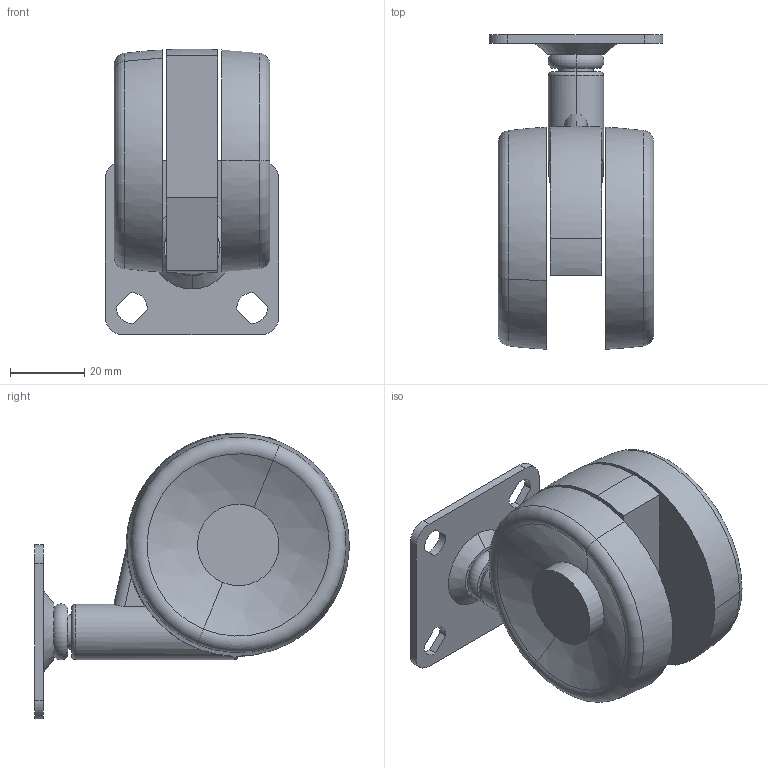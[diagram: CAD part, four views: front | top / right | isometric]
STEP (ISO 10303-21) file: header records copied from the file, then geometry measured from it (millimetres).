
FILE_DESCRIPTION (( 'STEP AP214' ), '1' );
FILE_NAME ('LAIA-60-P.STEP', '2020-04-01T07:22:12', ( '' ), ( '' ), 'SwSTEP 2.0', 'SolidWorks 2019', '' );
FILE_SCHEMA (( 'AUTOMOTIVE_DESIGN' ));
Length unit declared in the file: millimetre
Products named in the file (4): LAIA-60-P_wheel; LAIA-60-P_partsA; LAIA-60-P_partsB; LAIA-60-P
Assembly tree (4 placements, depth 2):
  LAIA-60-P
    LAIA-60-P_partsB
    LAIA-60-P_wheel  x2
    LAIA-60-P_partsA
Bounding box: 47 x 85 x 77.21 mm (x, y, z)
Volume: 99597 mm3; surface area: 28794.2 mm2
Topology: 4 solids, 4 shells, 79 faces, 189 edges, 121 vertices
Faces by surface type: plane 28, cylinder 28, torus 17, sphere 4, cone 2
Entity records: 2393 total; most frequent: CARTESIAN_POINT 534, DIRECTION 394, ORIENTED_EDGE 338, EDGE_CURVE 169, AXIS2_PLACEMENT_3D 162, VERTEX_POINT 109, CIRCLE 86, EDGE_LOOP 80
